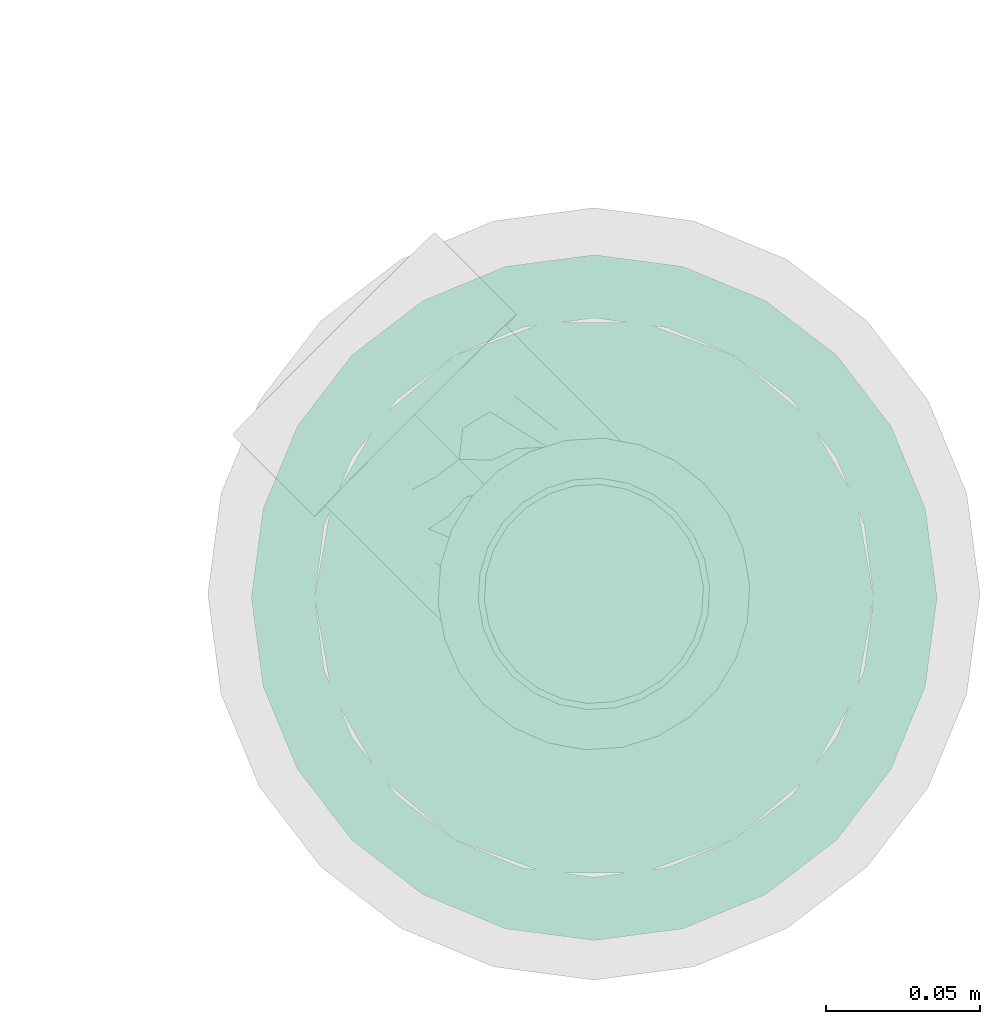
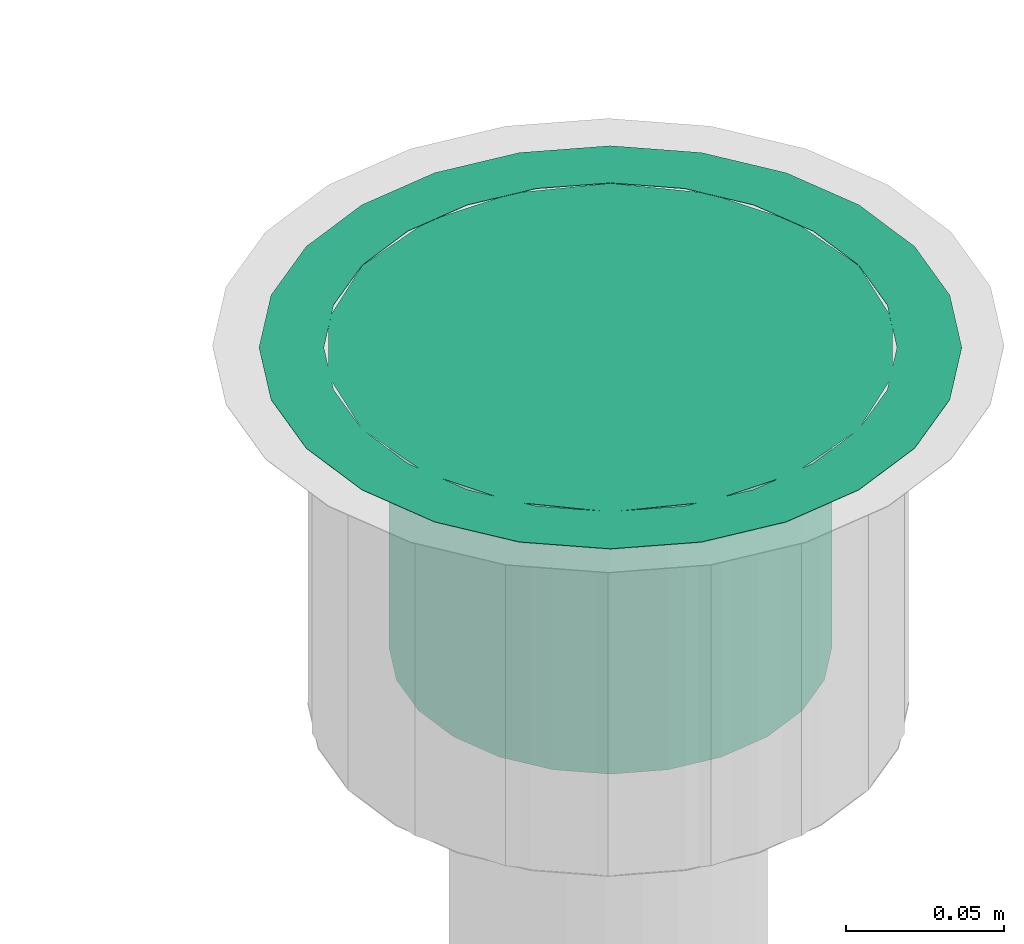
# One storey, part 64 of 108: 1 flow terminal.
"""IFC2X3 building model written with IfcOpenShell, lengths in millimetres."""

from ifc_helpers import new_model, entity, si_unit, converted_unit, derived_unit, direction, frame, origin_with_axes, place, context, subcontext, project, spatial, open_shell, surface_model, source, transform, mapped, type_object, element, save


model = new_model("IFC2X3")

# Units and contexts
model_context = context("Model", 3, precision=0.01, world=frame((0.0, 4.29681676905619e-09, 0.0)), true_north=direction((4.01073788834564e-13, 1.0)))
plan_context = context("Plan", 3, precision=0.01, world=frame((0.0, 4.29681676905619e-09, 0.0)), true_north=direction((4.01073788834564e-13, 1.0)))
body_context = subcontext(model_context, "Body", "Model", "MODEL_VIEW")
ifc_project = project(units=[converted_unit("PLANEANGLEUNIT", "DEGREE", entity("IfcPositiveLengthMeasure", 0.0174532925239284), si_unit("PLANEANGLEUNIT", "RADIAN"), dimensions=[0, 0, 0, 0, 0, 0, 0]), si_unit("AREAUNIT", "SQUARE_METRE"), si_unit("LENGTHUNIT", "METRE", prefix="MILLI"), si_unit("MASSUNIT", "GRAM", prefix="KILO"), si_unit("POWERUNIT", "WATT"), si_unit("PRESSUREUNIT", "PASCAL", prefix="KILO"), si_unit("FORCEUNIT", "NEWTON", prefix="KILO"), si_unit("ELECTRICVOLTAGEUNIT", "VOLT"), si_unit("ELECTRICCURRENTUNIT", "AMPERE"), si_unit("THERMODYNAMICTEMPERATUREUNIT", "DEGREE_CELSIUS"), si_unit("TIMEUNIT", "SECOND"), si_unit("VOLUMEUNIT", "CUBIC_METRE"), derived_unit("LINEARVELOCITYUNIT", [(si_unit("LENGTHUNIT", "METRE"), 1), (si_unit("TIMEUNIT", "SECOND"), -1)]), derived_unit("VOLUMETRICFLOWRATEUNIT", [(si_unit("VOLUMEUNIT", "CUBIC_METRE"), 1), (si_unit("TIMEUNIT", "SECOND"), -1)]), derived_unit("THERMALTRANSMITTANCEUNIT", [(si_unit("POWERUNIT", "WATT"), 1), (si_unit("THERMODYNAMICTEMPERATUREUNIT", "KELVIN"), -1), (si_unit("AREAUNIT", "SQUARE_METRE"), -1)]), derived_unit("SOUNDPRESSUREUNIT", [(si_unit("PRESSUREUNIT", "PASCAL"), 1)])], contexts=[model_context, plan_context])

# Site, building, storey
site_placement = place(None, frame((0.0, -4.29681676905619e-09, 0.0), z_axis=(0.0, 0.0, 1.0), x_axis=(1.0, 0.0, 0.0)))
site = spatial("IfcSite", under=ifc_project, at=site_placement, CompositionType="ELEMENT")
building_placement = place(site_placement, frame((0.0, 4.29681676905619e-09, 0.0), z_axis=(0.0, 0.0, 1.0), x_axis=(1.0, 0.0, 0.0)))
building = spatial("IfcBuilding", under=site, at=building_placement, Name="mc-building", CompositionType="ELEMENT")
storey_placement = place(building_placement, frame((0.0, 0.0, 210200.0), z_axis=(0.0, 0.0, 1.0), x_axis=(1.0, 0.0, 0.0)))
storey = spatial("IfcBuildingStorey", under=building, at=storey_placement, Name="Nivå F - 0,7 m", CompositionType="ELEMENT", Elevation=210200.0)

# Flow terminal
waste_terminal_type = type_object("IfcWasteTerminalType", Name="BM NO. 210.200.075 V  MULTI 206-75S D150 Horizontal", PredefinedType="NOTDEFINED")
shared_shape = source(origin_with_axes(), body_context, "Body", "SurfaceModel", [
    surface_model("IfcShellBasedSurfaceModel", [(10.04218, -37.47792, -122.9), (19.4, -33.60178, -122.9), (27.43574, -27.43574, -122.9), (-38.8, 0.0, -122.9), (37.47792, -10.04218, -122.9), (33.60178, -19.4, -122.9), (-19.4, -33.60178, -122.9), (0.0, -38.8, -122.9), (-10.04218, -37.47792, -122.9), (-33.60178, -19.4, -122.9), (-27.43574, -27.43574, -122.9), (-37.47792, -10.04218, -122.9), (38.8, 0.0, -122.9), (37.47792, 10.04218, -122.9), (33.60178, 19.4, -122.9), (27.43574, 27.43574, -122.9), (19.4, 33.60178, -122.9), (10.04218, 37.47792, -122.9), (0.0, 38.8, -122.9), (-37.47792, 10.04218, -122.9), (-27.43574, 27.43574, -122.9), (-33.60178, 19.4, -122.9), (-10.04218, 37.47792, -122.9), (-19.4, 33.60178, -122.9), (0.0, 38.8, -123.1), (10.04218, 37.47792, -123.1), (19.4, 33.60178, -123.1), (-10.04218, 37.47792, -123.1), (27.43574, 27.43574, -123.1), (33.60178, 19.4, -123.1), (37.47792, 10.04218, -123.1), (-37.47792, 10.04218, -123.1), (-19.4, 33.60178, -123.1), (-27.43574, 27.43574, -123.1), (-33.60178, 19.4, -123.1), (10.04218, -37.47792, -123.1), (-38.8, 0.0, -123.1), (38.8, 0.0, -123.1), (37.47792, -10.04218, -123.1), (33.60178, -19.4, -123.1), (27.43574, -27.43574, -123.1), (19.4, -33.60178, -123.1), (-19.4, -33.60178, -123.1), (-33.60178, -19.4, -123.1), (-27.43574, -27.43574, -123.1), (-37.47792, -10.04218, -123.1), (0.0, -38.8, -123.1), (-10.04218, -37.47792, -123.1), (-55.5, 96.12882, 0.1), (-78.48885, 78.48885, 0.1), (-45.25, 78.3753, 0.1), (-63.99316, 63.99316, 0.1), (-23.42312, 87.41628, 0.1), (-28.72892, 107.21777, 0.1), (0.0, 90.5, 0.1), (0.0, 111.0, 0.1), (-87.41628, 23.42312, 0.1), (-96.12882, 55.5, 0.1), (-107.21777, 28.72892, 0.1), (-90.5, 0.0, 0.1), (-111.0, 0.0, 0.1), (-78.3753, 45.25, 0.1), (23.42312, 87.41628, 0.1), (28.72892, 107.21777, 0.1), (45.25, 78.3753, 0.1), (78.48885, 78.48885, 0.1), (55.5, 96.12882, 0.1), (63.99316, 63.99316, 0.1), (78.3753, 45.25, 0.1), (87.41628, 23.42312, 0.1), (96.12882, 55.5, 0.1), (107.21777, 28.72892, 0.1), (90.5, 0.0, 0.1), (111.0, 0.0, 0.1), (-87.41628, -23.42312, 0.1), (-107.21777, -28.72892, 0.1), (-78.3753, -45.25, 0.1), (-96.12882, -55.5, 0.1), (-63.99316, -63.99316, 0.1), (-78.48885, -78.48885, 0.1), (-45.25, -78.3753, 0.1), (-55.5, -96.12882, 0.1), (-23.42312, -87.41628, 0.1), (-28.72892, -107.21777, 0.1), (0.0, -90.5, 0.1), (0.0, -111.0, 0.1), (96.12882, -55.5, 0.1), (78.3753, -45.25, 0.1), (78.48885, -78.48885, 0.1), (87.41628, -23.42312, 0.1), (107.21777, -28.72892, 0.1), (63.99316, -63.99316, 0.1), (23.42312, -87.41628, 0.1), (28.72892, -107.21777, 0.1), (45.25, -78.3753, 0.1), (55.5, -96.12882, 0.1), (-55.5, -96.12882, -0.1), (-78.48885, -78.48885, -0.1), (-45.25, -78.3753, -0.1), (-63.99316, -63.99316, -0.1), (-23.42312, -87.41628, -0.1), (-28.72892, -107.21777, -0.1), (0.0, -90.5, -0.1), (0.0, -111.0, -0.1), (-87.41628, -23.42312, -0.1), (-96.12882, -55.5, -0.1), (-107.21777, -28.72892, -0.1), (-90.5, 0.0, -0.1), (-111.0, 0.0, -0.1), (-78.3753, -45.25, -0.1), (23.42312, -87.41628, -0.1), (28.72892, -107.21777, -0.1), (45.25, -78.3753, -0.1), (78.48885, -78.48885, -0.1), (55.5, -96.12882, -0.1), (63.99316, -63.99316, -0.1), (78.3753, -45.25, -0.1), (87.41628, -23.42312, -0.1), (96.12882, -55.5, -0.1), (107.21777, -28.72892, -0.1), (90.5, 0.0, -0.1), (111.0, 0.0, -0.1), (-87.41628, 23.42312, -0.1), (-107.21777, 28.72892, -0.1), (-78.3753, 45.25, -0.1), (-96.12882, 55.5, -0.1), (-63.99316, 63.99316, -0.1), (-78.48885, 78.48885, -0.1), (-45.25, 78.3753, -0.1), (-55.5, 96.12882, -0.1), (-23.42312, 87.41628, -0.1), (-28.72892, 107.21777, -0.1), (0.0, 90.5, -0.1), (0.0, 111.0, -0.1), (96.12882, 55.5, -0.1), (78.3753, 45.25, -0.1), (78.48885, 78.48885, -0.1), (87.41628, 23.42312, -0.1), (107.21777, 28.72892, -0.1), (63.99316, 63.99316, -0.1), (23.42312, 87.41628, -0.1), (28.72892, 107.21777, -0.1), (45.25, 78.3753, -0.1), (55.5, 96.12882, -0.1), (-10.79227, 47.28401, -115.5), (-30.23926, 37.91883, -115.5), (-43.69699, 21.04336, -115.5), (43.69699, -21.04336, -115.5), (43.69699, 21.04336, -115.5), (10.79227, 47.28401, -115.5), (30.23926, 37.91883, -115.5), (-48.5, 0.0, -115.5), (-43.69699, -21.04336, -115.5), (-30.23926, -37.91883, -115.5), (-10.79227, -47.28401, -115.5), (10.79227, -47.28401, -115.5), (48.5, 0.0, -115.5), (30.23926, -37.91883, -115.5), (38.8, 0.0, -123.0), (0.0, 38.8, -123.0), (19.4, 33.60178, -123.0), (-19.4, 33.60178, -123.0), (-38.8, 0.0, -123.0), (-33.60178, 19.4, -123.0), (33.60178, 19.4, -123.0), (0.0, -38.8, -123.0), (33.60178, -19.4, -123.0), (19.4, -33.60178, -123.0), (-33.60178, -19.4, -123.0), (-19.4, -33.60178, -123.0), (-26.50089, -26.50089, -123.0), (-20.51576, -42.60141, -115.5), (-36.96812, -29.48109, -115.5), (-36.20089, -9.7, -123.0), (26.50089, -26.50089, -123.0), (46.09849, -10.52168, -115.5), (36.20089, -9.7, -123.0), (-9.7, -36.20089, -123.0), (0.0, -47.28401, -115.5), (20.51576, -42.60141, -115.5), (-46.09849, -10.52168, -115.5), (9.7, -36.20089, -123.0), (36.96812, -29.48109, -115.5), (26.50089, 26.50089, -123.0), (20.51576, 42.60141, -115.5), (36.96812, 29.48109, -115.5), (36.20089, 9.7, -123.0), (-26.50089, 26.50089, -123.0), (-46.09849, 10.52168, -115.5), (-36.20089, 9.7, -123.0), (9.7, 36.20089, -123.0), (0.0, 47.28401, -115.5), (-20.51576, 42.60141, -115.5), (46.09849, 10.52168, -115.5), (-9.7, 36.20089, -123.0), (-36.96812, 29.48109, -115.5), (-45.25, 78.3753, 0.0), (-69.32702, 58.17228, 0.0), (-85.04218, 30.95282, 0.0), (69.32702, -58.17228, 0.0), (-15.71516, 89.1251, 0.0), (-45.25, -78.3753, 0.0), (15.71516, 89.1251, 0.0), (45.25, 78.3753, 0.0), (69.32702, 58.17228, 0.0), (90.5, 0.0, 0.0), (85.04218, 30.95282, 0.0), (-90.5, 0.0, 0.0), (-85.04218, -30.95282, 0.0), (-69.32702, -58.17228, 0.0), (45.25, -78.3753, 0.0), (-15.71516, -89.1251, 0.0), (85.04218, -30.95282, 0.0), (15.71516, -89.1251, 0.0), (-26.78784, 64.67157, -20.0), (0.0, 70.0, -20.0), (26.78784, 64.67157, -20.0), (49.49747, 49.49747, -20.0), (-49.49747, -49.49747, -20.0), (-49.49747, 49.49747, -20.0), (-64.67157, 26.78784, -20.0), (-70.0, 0.0, -20.0), (64.67157, 26.78784, -20.0), (70.0, 0.0, -20.0), (64.67157, -26.78784, -20.0), (49.49747, -49.49747, -20.0), (26.78784, -64.67157, -20.0), (-64.67157, -26.78784, -20.0), (0.0, -70.0, -20.0), (-26.78784, -64.67157, -20.0), (-67.33578, -13.39392, -20.0), (38.14266, -57.08452, -20.0), (-38.14266, -57.08452, -20.0), (-13.39392, -67.33578, -20.0), (-57.08452, -38.14266, -20.0), (13.39392, -67.33578, -20.0), (57.08452, -38.14266, -20.0), (67.33578, -13.39392, -20.0), (67.33578, 13.39392, -20.0), (-38.14266, 57.08452, -20.0), (38.14266, 57.08452, -20.0), (13.39392, 67.33578, -20.0), (57.08452, 38.14266, -20.0), (-13.39392, 67.33578, -20.0), (-57.08452, 38.14266, -20.0), (-67.33578, 13.39392, -20.0), (67.61481, -18.11733, -20.0), (18.11733, -67.61481, -20.0), (35.0, -60.62178, -20.0), (-35.0, -60.62178, -20.0), (60.62178, -35.0, -20.0), (18.11733, 67.61481, -20.0), (-60.62178, -35.0, -20.0), (-18.11733, -67.61481, -20.0), (-67.61481, -18.11733, -20.0), (67.61481, 18.11733, -20.0), (60.62178, 35.0, -20.0), (35.0, 60.62178, -20.0), (-67.61481, 18.11733, -20.0), (-60.62178, 35.0, -20.0), (-35.0, 60.62178, -20.0), (-18.11733, 67.61481, -20.0), (18.11733, 67.61481, -105.5), (-70.0, 0.0, -105.5), (0.0, 70.0, -105.5), (49.49747, 49.49747, -105.5), (35.0, 60.62178, -105.5), (60.62178, 35.0, -105.5), (67.61481, 18.11733, -105.5), (-35.0, 60.62178, -105.5), (-18.11733, 67.61481, -105.5), (-49.49747, 49.49747, -105.5), (-67.61481, 18.11733, -105.5), (-60.62178, 35.0, -105.5), (70.0, 0.0, -105.5), (67.61481, -18.11733, -105.5), (0.0, -70.0, -105.5), (49.49747, -49.49747, -105.5), (60.62178, -35.0, -105.5), (35.0, -60.62178, -105.5), (18.11733, -67.61481, -105.5), (-60.62178, -35.0, -105.5), (-35.0, -60.62178, -105.5), (-49.49747, -49.49747, -105.5), (-67.61481, -18.11733, -105.5), (-18.11733, -67.61481, -105.5), (34.9, -60.44857, -105.5), (18.06557, -67.42162, -105.5), (0.0, -69.8, -105.5), (49.35605, -49.35605, -105.5), (69.8, 0.0, -105.5), (67.42162, -18.06557, -105.5), (60.44857, -34.9, -105.5), (-18.06557, -67.42162, -105.5), (-34.9, -60.44857, -105.5), (-49.35605, -49.35605, -105.5), (-60.44857, -34.9, -105.5), (-67.42162, -18.06557, -105.5), (-69.8, 0.0, -105.5), (67.42162, 18.06557, -105.5), (60.44857, 34.9, -105.5), (49.35605, 49.35605, -105.5), (34.9, 60.44857, -105.5), (18.06557, 67.42162, -105.5), (0.0, 69.8, -105.5), (-60.44857, 34.9, -105.5), (-49.35605, 49.35605, -105.5), (-67.42162, 18.06557, -105.5), (-18.06557, 67.42162, -105.5), (-34.9, 60.44857, -105.5), (18.11733, 67.61481, -115.5), (-70.0, 0.0, -115.5), (0.0, 70.0, -115.5), (49.49747, 49.49747, -115.5), (35.0, 60.62178, -115.5), (60.62178, 35.0, -115.5), (67.61481, 18.11733, -115.5), (-35.0, 60.62178, -115.5), (-18.11733, 67.61481, -115.5), (-49.49747, 49.49747, -115.5), (-67.61481, 18.11733, -115.5), (-60.62178, 35.0, -115.5), (70.0, 0.0, -115.5), (67.61481, -18.11733, -115.5), (0.0, -70.0, -115.5), (49.49747, -49.49747, -115.5), (60.62178, -35.0, -115.5), (35.0, -60.62178, -115.5), (18.11733, -67.61481, -115.5), (-60.62178, -35.0, -115.5), (-35.0, -60.62178, -115.5), (-49.49747, -49.49747, -115.5), (-67.61481, -18.11733, -115.5), (-18.11733, -67.61481, -115.5), (0.0, 69.8, -115.3), (-49.35605, 49.35605, -115.3), (18.06557, 67.42162, -115.3), (34.9, 60.44857, -115.3), (49.35605, 49.35605, -115.3), (67.42162, 18.06557, -115.3), (60.44857, 34.9, -115.3), (-69.8, 0.0, -115.3), (-67.42162, -18.06557, -115.3), (-18.06557, 67.42162, -115.3), (-34.9, 60.44857, -115.3), (-67.42162, 18.06557, -115.3), (-60.44857, 34.9, -115.3), (67.42162, -18.06557, -115.3), (60.44857, -34.9, -115.3), (18.06557, -67.42162, -115.3), (34.9, -60.44857, -115.3), (49.35605, -49.35605, -115.3), (-34.9, -60.44857, -115.3), (-60.44857, -34.9, -115.3), (-49.35605, -49.35605, -115.3), (-18.06557, -67.42162, -115.3), (0.0, -69.8, -115.3), (69.8, 0.0, -115.3)], [open_shell([[[0, 1, 2]], [[3, 0, 2]], [[3, 2, 4]], [[4, 2, 5]], [[6, 0, 3]], [[7, 6, 8]], [[7, 0, 6]], [[6, 9, 10]], [[6, 3, 9]], [[9, 3, 11]], [[4, 12, 13]], [[13, 14, 15]], [[4, 15, 3]], [[16, 17, 18]], [[3, 15, 16]], [[3, 16, 18]], [[19, 20, 21]], [[22, 19, 3]], [[19, 23, 20]], [[23, 19, 22]], [[3, 18, 22]], [[15, 4, 13]], [[24, 25, 26]], [[27, 24, 26]], [[28, 29, 30]], [[27, 26, 28]], [[31, 28, 30]], [[32, 31, 33]], [[32, 27, 28]], [[33, 31, 34]], [[28, 31, 32]], [[31, 35, 36]], [[31, 30, 37]], [[31, 38, 35]], [[35, 38, 39]], [[40, 41, 35]], [[40, 35, 39]], [[42, 36, 35]], [[43, 42, 44]], [[45, 36, 43]], [[42, 46, 47]], [[43, 36, 42]], [[46, 42, 35]], [[37, 38, 31]], [[45, 11, 36]], [[43, 9, 45]], [[6, 44, 42]], [[43, 44, 10]], [[8, 42, 47]], [[45, 9, 11]], [[11, 3, 36]], [[8, 6, 42]], [[10, 44, 6]], [[10, 9, 43]], [[7, 8, 47]], [[47, 46, 7]], [[35, 0, 46]], [[41, 1, 35]], [[5, 40, 39]], [[41, 40, 2]], [[4, 39, 38]], [[41, 2, 1]], [[1, 0, 35]], [[12, 4, 38]], [[5, 39, 4]], [[5, 2, 40]], [[37, 12, 38]], [[46, 0, 7]], [[30, 13, 37]], [[29, 14, 30]], [[16, 28, 26]], [[29, 28, 15]], [[17, 26, 25]], [[30, 14, 13]], [[13, 12, 37]], [[17, 16, 26]], [[15, 28, 16]], [[15, 14, 29]], [[18, 17, 25]], [[25, 24, 18]], [[27, 22, 24]], [[32, 23, 27]], [[21, 33, 34]], [[32, 33, 20]], [[19, 34, 31]], [[32, 20, 23]], [[23, 22, 27]], [[3, 19, 31]], [[21, 34, 19]], [[21, 20, 33]], [[36, 3, 31]], [[24, 22, 18]], [[48, 49, 50]], [[50, 49, 51]], [[48, 50, 52]], [[53, 52, 54]], [[52, 53, 48]], [[53, 54, 55]], [[56, 57, 58]], [[59, 58, 60]], [[56, 58, 59]], [[61, 51, 57]], [[56, 61, 57]], [[57, 51, 49]], [[55, 62, 63]], [[55, 54, 62]], [[63, 62, 64]], [[65, 66, 67]], [[64, 66, 63]], [[67, 66, 64]], [[68, 69, 70]], [[68, 70, 65]], [[69, 71, 70]], [[71, 69, 72]], [[71, 72, 73]], [[68, 65, 67]], [[74, 60, 75]], [[76, 75, 77]], [[76, 74, 75]], [[78, 76, 77]], [[77, 79, 78]], [[80, 79, 81]], [[79, 80, 78]], [[80, 81, 82]], [[82, 83, 84]], [[83, 82, 81]], [[84, 83, 85]], [[86, 87, 88]], [[89, 87, 90]], [[89, 90, 73]], [[90, 87, 86]], [[87, 91, 88]], [[73, 72, 89]], [[92, 85, 93]], [[85, 92, 84]], [[92, 93, 94]], [[95, 88, 91]], [[95, 94, 93]], [[95, 91, 94]], [[74, 59, 60]], [[96, 97, 98]], [[98, 97, 99]], [[96, 98, 100]], [[101, 100, 102]], [[100, 101, 96]], [[101, 102, 103]], [[104, 105, 106]], [[107, 106, 108]], [[104, 106, 107]], [[109, 99, 105]], [[104, 109, 105]], [[105, 99, 97]], [[103, 110, 111]], [[103, 102, 110]], [[111, 110, 112]], [[113, 114, 115]], [[112, 114, 111]], [[115, 114, 112]], [[116, 117, 118]], [[116, 118, 113]], [[117, 119, 118]], [[119, 117, 120]], [[119, 120, 121]], [[116, 113, 115]], [[122, 108, 123]], [[124, 123, 125]], [[124, 122, 123]], [[126, 124, 125]], [[125, 127, 126]], [[128, 127, 129]], [[127, 128, 126]], [[128, 129, 130]], [[130, 131, 132]], [[131, 130, 129]], [[132, 131, 133]], [[134, 135, 136]], [[137, 135, 138]], [[137, 138, 121]], [[138, 135, 134]], [[135, 139, 136]], [[121, 120, 137]], [[140, 133, 141]], [[133, 140, 132]], [[140, 141, 142]], [[143, 136, 139]], [[143, 142, 141]], [[143, 139, 142]], [[122, 107, 108]], [[59, 107, 56]], [[56, 122, 61]], [[50, 51, 126]], [[124, 51, 61]], [[52, 50, 128]], [[122, 124, 61]], [[56, 107, 122]], [[132, 54, 130]], [[52, 128, 130]], [[128, 50, 126]], [[51, 124, 126]], [[52, 130, 54]], [[62, 140, 64]], [[64, 142, 67]], [[69, 68, 135]], [[139, 68, 67]], [[72, 69, 137]], [[140, 142, 64]], [[62, 132, 140]], [[69, 135, 137]], [[135, 68, 139]], [[67, 142, 139]], [[72, 137, 120]], [[54, 132, 62]], [[72, 120, 89]], [[89, 117, 87]], [[94, 91, 115]], [[116, 91, 87]], [[92, 94, 112]], [[117, 116, 87]], [[89, 120, 117]], [[102, 84, 110]], [[92, 112, 110]], [[112, 94, 115]], [[91, 116, 115]], [[92, 110, 84]], [[82, 100, 80]], [[80, 98, 78]], [[104, 59, 74]], [[78, 99, 76]], [[74, 76, 109]], [[100, 98, 80]], [[82, 102, 100]], [[59, 104, 107]], [[109, 76, 99]], [[78, 98, 99]], [[109, 104, 74]], [[84, 102, 82]], [[106, 75, 108]], [[105, 77, 106]], [[81, 97, 96]], [[105, 97, 79]], [[83, 96, 101]], [[106, 77, 75]], [[75, 60, 108]], [[83, 81, 96]], [[79, 97, 81]], [[79, 77, 105]], [[85, 83, 101]], [[101, 103, 85]], [[111, 93, 103]], [[114, 95, 111]], [[86, 113, 118]], [[114, 113, 88]], [[90, 118, 119]], [[114, 88, 95]], [[95, 93, 111]], [[73, 90, 119]], [[86, 118, 90]], [[86, 88, 113]], [[121, 73, 119]], [[103, 93, 85]], [[138, 71, 121]], [[134, 70, 138]], [[66, 136, 143]], [[134, 136, 65]], [[63, 143, 141]], [[138, 70, 71]], [[71, 73, 121]], [[63, 66, 143]], [[65, 136, 66]], [[65, 70, 134]], [[55, 63, 141]], [[141, 133, 55]], [[131, 53, 133]], [[129, 48, 131]], [[123, 108, 58]], [[127, 49, 129]], [[129, 49, 48]], [[48, 53, 131]], [[125, 57, 49]], [[57, 125, 58]], [[58, 125, 123]], [[108, 60, 58]], [[125, 49, 127]], [[133, 53, 55]], [[144, 145, 146]], [[147, 148, 146]], [[149, 144, 148]], [[148, 150, 149]], [[144, 146, 148]], [[146, 151, 152]], [[152, 153, 154]], [[152, 154, 155]], [[148, 147, 156]], [[155, 157, 147]], [[152, 155, 147]], [[147, 146, 152]], [[158, 159, 160]], [[158, 161, 159]], [[161, 162, 163]], [[158, 162, 161]], [[158, 160, 164]], [[165, 158, 166]], [[165, 166, 167]], [[168, 165, 169]], [[168, 162, 165]], [[165, 162, 158]], [[170, 169, 153]], [[171, 153, 169]], [[172, 152, 168]], [[168, 152, 173]], [[157, 167, 174]], [[158, 175, 176]], [[171, 177, 154]], [[165, 178, 154]], [[167, 157, 179]], [[173, 152, 180]], [[165, 155, 178]], [[181, 167, 179]], [[162, 180, 151]], [[170, 153, 172]], [[162, 173, 180]], [[168, 170, 172]], [[175, 147, 176]], [[155, 181, 179]], [[177, 165, 154]], [[166, 182, 174]], [[147, 166, 176]], [[177, 171, 169]], [[182, 166, 147]], [[155, 165, 181]], [[182, 157, 174]], [[175, 158, 156]], [[183, 160, 150]], [[184, 150, 160]], [[185, 148, 164]], [[164, 148, 186]], [[145, 161, 187]], [[162, 188, 189]], [[184, 190, 149]], [[159, 191, 149]], [[161, 145, 192]], [[186, 148, 193]], [[159, 144, 191]], [[194, 161, 192]], [[158, 193, 156]], [[183, 150, 185]], [[158, 186, 193]], [[164, 183, 185]], [[188, 146, 189]], [[144, 194, 192]], [[190, 159, 149]], [[163, 195, 187]], [[146, 163, 189]], [[190, 184, 160]], [[195, 163, 146]], [[144, 159, 194]], [[195, 145, 187]], [[188, 162, 151]], [[196, 197, 198]], [[196, 199, 200]], [[198, 201, 196]], [[202, 200, 203]], [[200, 204, 203]], [[204, 200, 199]], [[204, 205, 206]], [[198, 207, 208]], [[208, 209, 201]], [[201, 210, 196]], [[210, 201, 211]], [[212, 205, 199]], [[199, 205, 204]], [[210, 199, 196]], [[211, 213, 210]], [[208, 201, 198]], [[214, 215, 216]], [[214, 216, 217]], [[217, 218, 214]], [[219, 214, 220]], [[218, 221, 220]], [[218, 220, 214]], [[217, 222, 218]], [[223, 224, 225]], [[225, 226, 223]], [[223, 226, 218]], [[221, 218, 227]], [[228, 229, 218]], [[226, 228, 218]], [[218, 222, 223]], [[207, 230, 208]], [[210, 226, 231]], [[201, 218, 232]], [[233, 228, 211]], [[208, 234, 209]], [[218, 201, 209]], [[234, 208, 227]], [[229, 211, 201]], [[213, 228, 235]], [[211, 229, 233]], [[226, 213, 235]], [[230, 227, 208]], [[224, 212, 236]], [[230, 207, 221]], [[225, 210, 231]], [[232, 229, 201]], [[237, 223, 205]], [[212, 224, 237]], [[226, 210, 213]], [[234, 218, 209]], [[236, 212, 199]], [[237, 205, 212]], [[199, 225, 236]], [[199, 210, 225]], [[228, 213, 211]], [[205, 238, 206]], [[196, 214, 239]], [[203, 217, 240]], [[241, 215, 202]], [[206, 242, 204]], [[217, 203, 204]], [[242, 206, 222]], [[216, 202, 203]], [[200, 215, 243]], [[202, 216, 241]], [[214, 200, 243]], [[238, 222, 206]], [[220, 198, 244]], [[238, 205, 223]], [[219, 196, 239]], [[240, 216, 203]], [[245, 221, 207]], [[198, 220, 245]], [[214, 196, 200]], [[242, 217, 204]], [[244, 198, 197]], [[245, 207, 198]], [[197, 219, 244]], [[197, 196, 219]], [[215, 200, 202]], [[246, 247, 248]], [[246, 248, 225]], [[247, 246, 249]], [[246, 225, 250]], [[246, 251, 252]], [[228, 249, 253]], [[228, 247, 249]], [[249, 252, 218]], [[246, 252, 249]], [[252, 221, 254]], [[246, 223, 255]], [[255, 256, 217]], [[255, 217, 257]], [[219, 252, 251]], [[246, 257, 251]], [[219, 251, 215]], [[258, 219, 259]], [[219, 258, 221]], [[215, 260, 219]], [[221, 252, 219]], [[261, 260, 215]], [[246, 255, 257]], [[262, 263, 264]], [[265, 262, 266]], [[265, 267, 268]], [[265, 268, 262]], [[263, 262, 268]], [[264, 269, 270]], [[264, 271, 269]], [[271, 272, 273]], [[272, 271, 263]], [[264, 263, 271]], [[268, 274, 263]], [[275, 276, 274]], [[277, 275, 278]], [[279, 280, 275]], [[279, 275, 277]], [[276, 275, 280]], [[281, 282, 283]], [[284, 263, 281]], [[282, 276, 285]], [[282, 281, 274]], [[276, 282, 274]], [[281, 263, 274]], [[254, 284, 281]], [[283, 252, 281]], [[249, 282, 285]], [[283, 282, 218]], [[253, 285, 276]], [[284, 221, 263]], [[284, 254, 221]], [[281, 252, 254]], [[283, 218, 252]], [[249, 218, 282]], [[285, 253, 249]], [[276, 228, 253]], [[247, 280, 279]], [[277, 248, 279]], [[250, 278, 275]], [[277, 278, 225]], [[246, 275, 274]], [[280, 247, 228]], [[279, 248, 247]], [[277, 225, 248]], [[278, 250, 225]], [[246, 250, 275]], [[274, 223, 246]], [[280, 228, 276]], [[268, 255, 274]], [[267, 256, 268]], [[251, 262, 264]], [[265, 217, 267]], [[268, 256, 255]], [[255, 223, 274]], [[266, 257, 217]], [[266, 262, 257]], [[262, 251, 257]], [[217, 256, 267]], [[217, 265, 266]], [[264, 215, 251]], [[261, 270, 269]], [[271, 260, 269]], [[259, 273, 272]], [[271, 273, 219]], [[258, 272, 263]], [[270, 261, 215]], [[269, 260, 261]], [[271, 219, 260]], [[273, 259, 219]], [[258, 259, 272]], [[263, 221, 258]], [[270, 215, 264]], [[279, 277, 286]], [[279, 286, 287]], [[288, 280, 287]], [[280, 288, 276]], [[287, 280, 279]], [[286, 277, 289]], [[275, 290, 291]], [[290, 275, 274]], [[275, 291, 278]], [[289, 278, 292]], [[278, 289, 277]], [[292, 278, 291]], [[276, 293, 285]], [[285, 293, 294]], [[283, 282, 295]], [[294, 282, 285]], [[294, 295, 282]], [[276, 288, 293]], [[296, 281, 283]], [[281, 296, 297]], [[296, 283, 295]], [[284, 297, 298]], [[297, 284, 281]], [[284, 298, 263]], [[274, 268, 299]], [[299, 268, 300]], [[300, 267, 301]], [[267, 300, 268]], [[301, 267, 265]], [[265, 266, 302]], [[302, 266, 303]], [[303, 262, 304]], [[262, 303, 266]], [[304, 262, 264]], [[302, 301, 265]], [[273, 305, 271]], [[271, 305, 306]], [[305, 273, 272]], [[263, 307, 272]], [[272, 307, 305]], [[263, 298, 307]], [[308, 264, 270]], [[308, 270, 309]], [[306, 269, 271]], [[306, 309, 269]], [[269, 309, 270]], [[304, 264, 308]], [[299, 290, 274]], [[310, 311, 312]], [[313, 310, 314]], [[313, 315, 316]], [[313, 316, 310]], [[311, 310, 316]], [[312, 317, 318]], [[312, 319, 317]], [[319, 320, 321]], [[320, 319, 311]], [[312, 311, 319]], [[316, 322, 311]], [[323, 324, 322]], [[325, 323, 326]], [[327, 328, 323]], [[327, 323, 325]], [[324, 323, 328]], [[329, 330, 331]], [[332, 311, 329]], [[330, 324, 333]], [[330, 329, 322]], [[324, 330, 322]], [[329, 311, 322]], [[332, 284, 311]], [[329, 281, 332]], [[282, 331, 330]], [[329, 331, 283]], [[285, 330, 333]], [[332, 281, 284]], [[284, 263, 311]], [[285, 282, 330]], [[283, 331, 282]], [[283, 281, 329]], [[276, 285, 333]], [[333, 324, 276]], [[328, 280, 324]], [[327, 279, 328]], [[278, 325, 326]], [[327, 325, 277]], [[275, 326, 323]], [[327, 277, 279]], [[279, 280, 328]], [[274, 275, 323]], [[278, 326, 275]], [[278, 277, 325]], [[322, 274, 323]], [[324, 280, 276]], [[316, 268, 322]], [[315, 267, 316]], [[266, 313, 314]], [[315, 313, 265]], [[262, 314, 310]], [[316, 267, 268]], [[268, 274, 322]], [[262, 266, 314]], [[265, 313, 266]], [[265, 267, 315]], [[264, 262, 310]], [[310, 312, 264]], [[318, 270, 312]], [[317, 269, 318]], [[273, 319, 321]], [[317, 319, 271]], [[272, 321, 320]], [[317, 271, 269]], [[269, 270, 318]], [[263, 272, 320]], [[273, 321, 272]], [[273, 271, 319]], [[311, 263, 320]], [[312, 270, 264]], [[334, 335, 336]], [[337, 336, 338]], [[339, 340, 338]], [[341, 338, 336]], [[341, 342, 338]], [[343, 344, 334]], [[344, 335, 334]], [[345, 341, 346]], [[335, 346, 341]], [[335, 341, 336]], [[342, 339, 338]], [[347, 339, 342]], [[348, 347, 349]], [[348, 349, 350]], [[351, 348, 350]], [[349, 347, 352]], [[353, 354, 342]], [[352, 342, 354]], [[355, 356, 352]], [[347, 342, 352]], [[352, 356, 349]], [[357, 339, 347]], [[341, 297, 342]], [[342, 296, 353]], [[352, 354, 294]], [[295, 354, 353]], [[355, 352, 293]], [[297, 296, 342]], [[341, 298, 297]], [[352, 294, 293]], [[294, 354, 295]], [[353, 296, 295]], [[355, 293, 288]], [[288, 356, 355]], [[356, 287, 349]], [[349, 286, 350]], [[348, 351, 292]], [[289, 351, 350]], [[347, 348, 291]], [[286, 289, 350]], [[349, 287, 286]], [[347, 291, 290]], [[291, 348, 292]], [[351, 289, 292]], [[347, 290, 357]], [[288, 287, 356]], [[357, 299, 339]], [[339, 300, 340]], [[337, 338, 302]], [[301, 338, 340]], [[336, 337, 303]], [[299, 300, 339]], [[357, 290, 299]], [[337, 302, 303]], [[302, 338, 301]], [[340, 300, 301]], [[336, 303, 304]], [[304, 334, 336]], [[334, 308, 343]], [[343, 309, 344]], [[346, 335, 305]], [[306, 335, 344]], [[345, 346, 307]], [[309, 306, 344]], [[343, 308, 309]], [[345, 307, 298]], [[307, 346, 305]], [[335, 306, 305]], [[345, 298, 341]], [[304, 308, 334]]])]),
])
flow_terminal_placement = place(storey_placement, frame((348065.51098, 459652.03689, 10.0), z_axis=(0.0, 0.0, 1.0), x_axis=(1.0, 0.0, 0.0)))
element("IfcFlowTerminal", 1, at=flow_terminal_placement, inside=storey, type_object=waste_terminal_type, Name="BM NO. 210.200.075 V  MULTI 206-75S D150 Horizontal", context=body_context, shape_type="MappedRepresentation", body=[
    mapped(shared_shape, transform((0.0, 0.0, 0.0), scale=1.0)),
])

save(model, "model.ifc")
